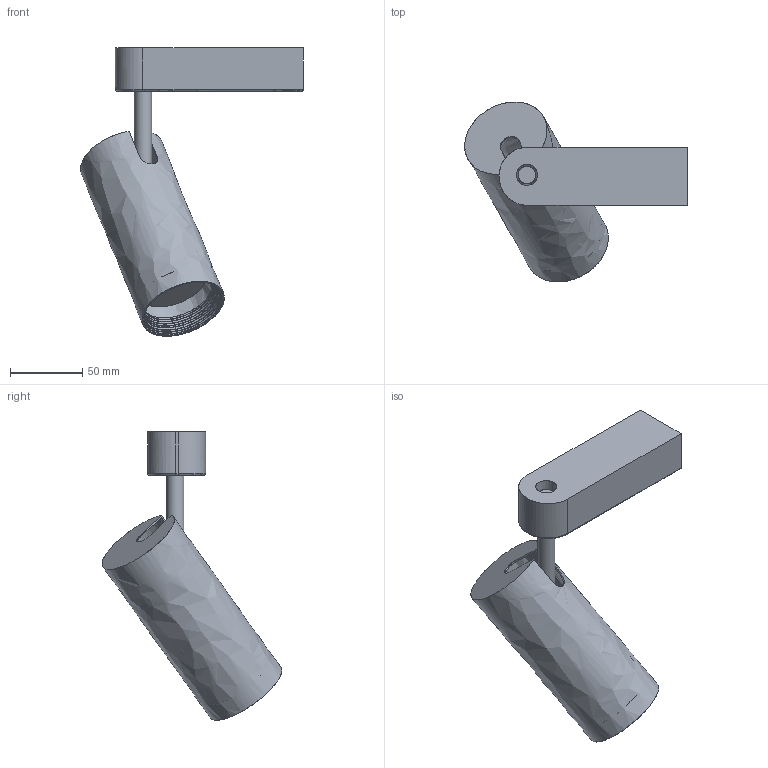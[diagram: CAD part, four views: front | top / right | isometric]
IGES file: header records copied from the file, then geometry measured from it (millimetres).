
Start section: SolidWorks IGES file using NURBS representation for surfaces
Global section: file name: Z:\Modele 3D_WWW\_KOLEKCJE WWW\PROFILE SYSTEM\PROFILE-IRIS-LED\PROFILE-IRIS-LED-20W-9004-9005-9006-9007\PROFILE-IRIS-LED-20W-9004-9005-9006-9007.IGS; native system: SolidWorks 2021; preprocessor: SolidWorks 2021; author: gabriela.tworek; date: 220203.125624; units: millimetre
Bounding box: 154.08 x 124.39 x 199.63 mm (x, y, z)
Surface area: 84505.5 mm2 (no closed solid volume)
Topology: 0 solids, 0 shells, 51 faces, 237 edges, 222 vertices
Faces by surface type: bspline 51
